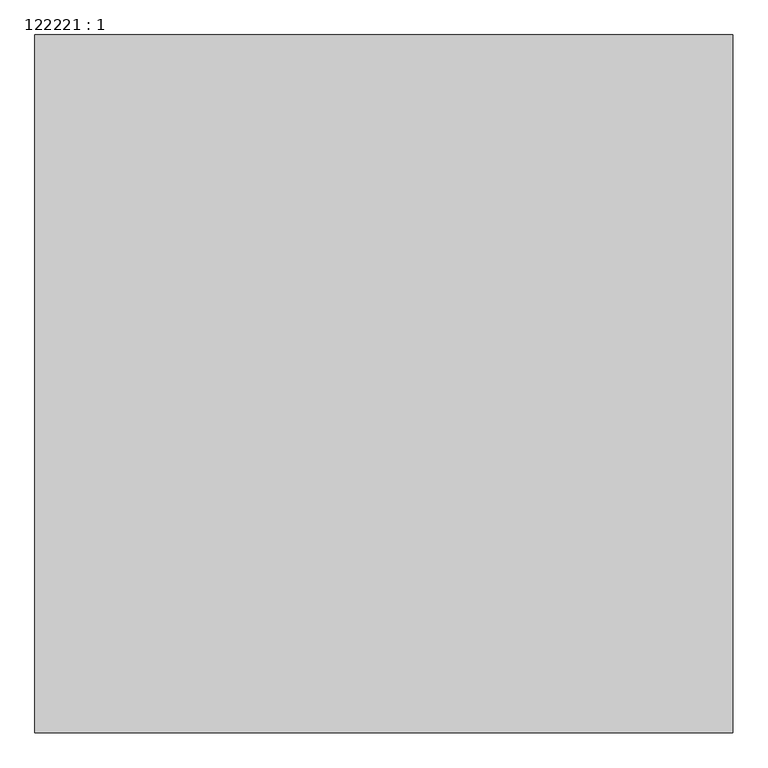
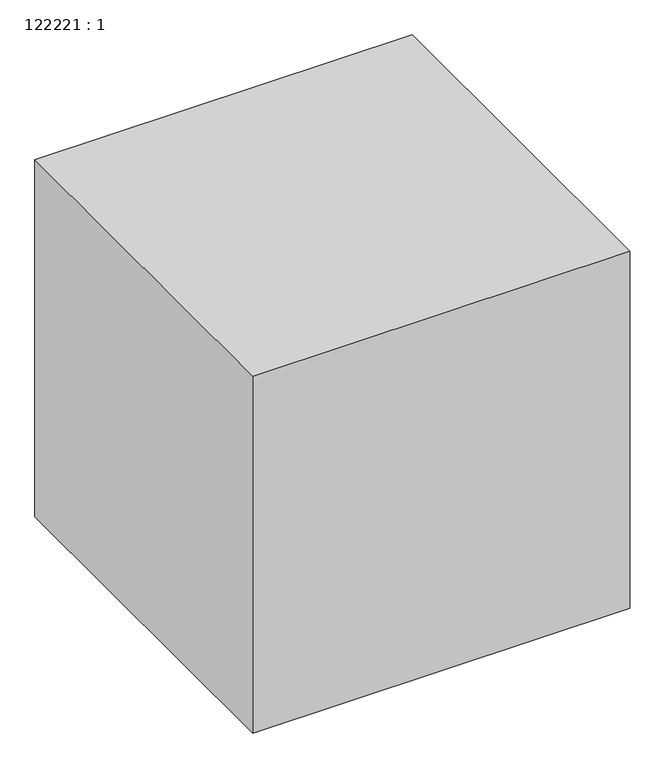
"""IFC4 building model written with IfcOpenShell, lengths in millimetres: proxy geometry, 122221 : 1."""

from ifc_helpers import new_model, si_unit, origin, origin_with_axes, place, context, project, spatial, polyline, outline, extrude, source, transform, mapped, element, save


def proxy_122221_1_a3bcdc7e(model_context):
    return source(origin(), model_context, "Body", "SweptSolid", [
        extrude(outline(polyline([(-14307.9756708, 3335.2294472), (-14307.9756708, 2335.2294472), (-15307.9756708, 2335.2294472), (-15307.9756708, 3335.2294472), (-14307.9756708, 3335.2294472)])), origin_with_axes(), (0.0, 0.0, 1.0), 1000.0),
    ])


if __name__ == "__main__":
    model = new_model("IFC4")
    model_context = context("Model", 3, world=origin())
    ifc_project = project(units=[si_unit("LENGTHUNIT", "METRE", prefix="MILLI")], contexts=[model_context])
    site = spatial("IfcSite", under=ifc_project)
    building = spatial("IfcBuilding", under=site)
    placement = place(None, origin())
    proxy_122221_1_shape = proxy_122221_1_a3bcdc7e(model_context)
    element("IfcBuildingElementProxy", 1, Name="122221 : 1", ObjectType="122221 : 1", at=placement, inside=building, context=model_context, shape_type="MappedRepresentation", body=[
        mapped(proxy_122221_1_shape, transform((0.0, 0.0, 0.0), x_axis=(1.0, 0.0, 0.0), y_axis=(0.0, 1.0, 0.0), z_axis=(0.0, 0.0, 1.0))),
    ])
    save(model, "model.ifc")
